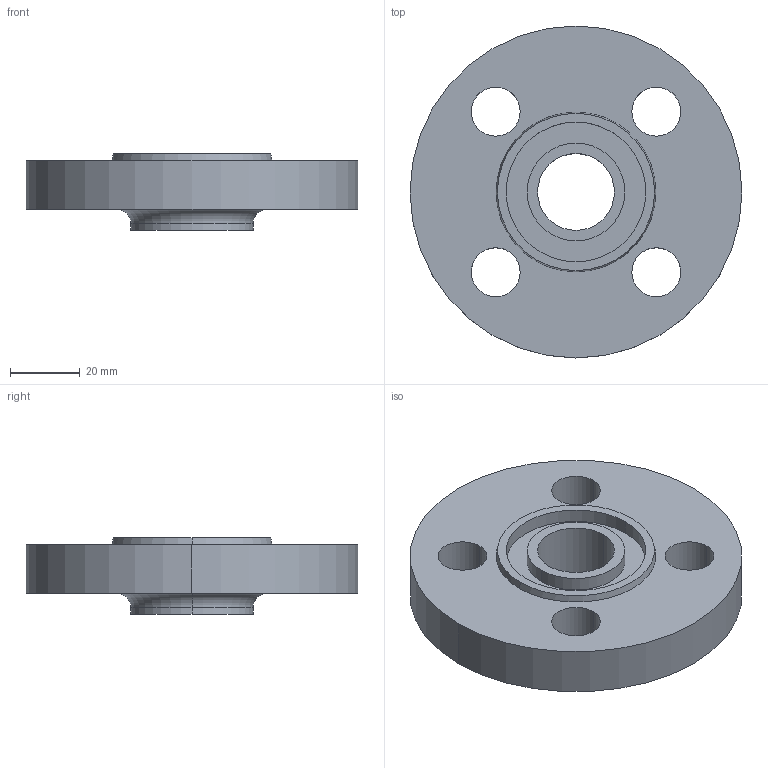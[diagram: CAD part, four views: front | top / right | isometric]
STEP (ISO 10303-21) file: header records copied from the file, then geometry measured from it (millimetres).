
FILE_DESCRIPTION (( 'STEP AP214' ), '1' );
FILE_NAME ('PN40 DN15 Type 12 - Type D Face.STEP', '2018-12-29T14:59:36', ( '' ), ( '' ), 'SwSTEP 2.0', 'SolidWorks 2019', '' );
FILE_SCHEMA (( 'AUTOMOTIVE_DESIGN' ));
Length unit declared in the file: millimetre
Products named in the file (1): PN40 DN15 Type 12 - Type D Face
Bounding box: 95 x 95 x 22 mm (x, y, z)
Volume: 89088.5 mm3; surface area: 21918.2 mm2
Topology: 1 solids, 1 shells, 28 faces, 64 edges, 42 vertices
Faces by surface type: cylinder 18, plane 6, torus 2, cone 2
Entity records: 870 total; most frequent: DIRECTION 166, CARTESIAN_POINT 135, ORIENTED_EDGE 128, AXIS2_PLACEMENT_3D 73, EDGE_CURVE 64, CIRCLE 44, EDGE_LOOP 42, VERTEX_POINT 42
